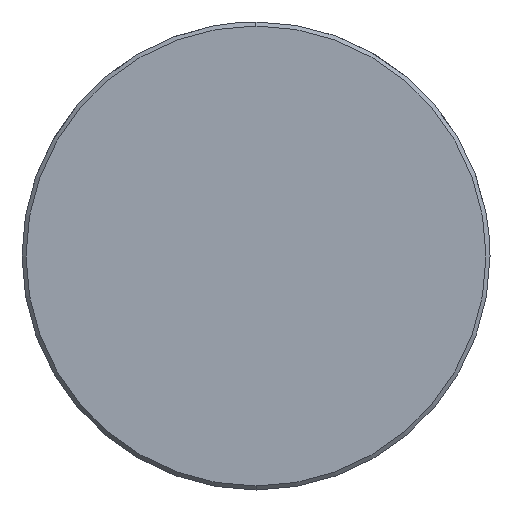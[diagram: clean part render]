
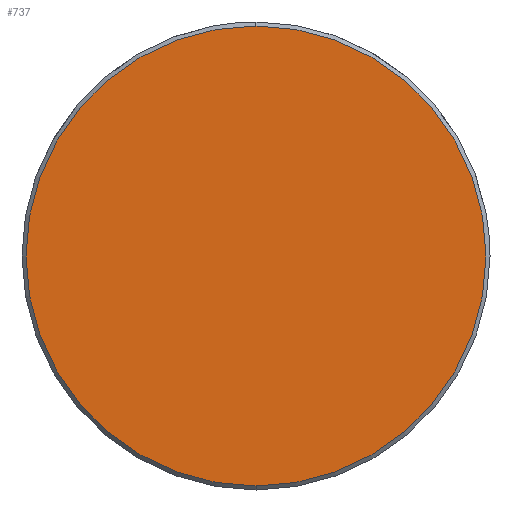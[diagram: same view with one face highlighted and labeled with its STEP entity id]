
A CAD part, left-side view. The second image highlights one B-rep face of the part: STEP entity #737.
In plain terms, the highlighted planar face has unit normal (-1, 0, 0).
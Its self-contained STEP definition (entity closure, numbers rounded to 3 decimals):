
#669=CARTESIAN_POINT('Vertex',(0.,0.,-17.2)) ;
#672=CARTESIAN_POINT('Axis2P3D Location',(0.,0.,0.)) ;
#676=CARTESIAN_POINT('Vertex',(0.,17.2,0.)) ;
#679=CARTESIAN_POINT('Axis2P3D Location',(0.,0.,0.)) ;
#683=CARTESIAN_POINT('Vertex',(0.,0.,17.2)) ;
#705=CARTESIAN_POINT('Axis2P3D Location',(0.,0.,0.)) ;
#709=CARTESIAN_POINT('Vertex',(0.,-17.2,0.)) ;
#712=CARTESIAN_POINT('Axis2P3D Location',(0.,0.,0.)) ;
#726=CARTESIAN_POINT('Axis2P3D Location',(0.,0.,0.)) ;
#673=DIRECTION('Axis2P3D Direction',(1.,0.,-0.)) ;
#680=DIRECTION('Axis2P3D Direction',(1.,0.,-0.)) ;
#706=DIRECTION('Axis2P3D Direction',(1.,0.,-0.)) ;
#713=DIRECTION('Axis2P3D Direction',(1.,0.,-0.)) ;
#727=DIRECTION('Axis2P3D Direction',(1.,0.,-0.)) ;
#728=DIRECTION('Axis2P3D XDirection',(-0.,0.,-1.)) ;
#674=AXIS2_PLACEMENT_3D('Circle Axis2P3D',#672,#673,$) ;
#681=AXIS2_PLACEMENT_3D('Circle Axis2P3D',#679,#680,$) ;
#707=AXIS2_PLACEMENT_3D('Circle Axis2P3D',#705,#706,$) ;
#714=AXIS2_PLACEMENT_3D('Circle Axis2P3D',#712,#713,$) ;
#729=AXIS2_PLACEMENT_3D('Plane Axis2P3D',#726,#727,#728) ;
#732=ORIENTED_EDGE('',*,*,#678,.F.) ;
#733=ORIENTED_EDGE('',*,*,#716,.F.) ;
#734=ORIENTED_EDGE('',*,*,#711,.F.) ;
#735=ORIENTED_EDGE('',*,*,#685,.F.) ;
#737=ADVANCED_FACE('549-30X120',(#736),#730,.F.) ;
#675=CIRCLE('generated circle',#674,17.2) ;
#682=CIRCLE('generated circle',#681,17.2) ;
#708=CIRCLE('generated circle',#707,17.2) ;
#715=CIRCLE('generated circle',#714,17.2) ;
#678=EDGE_CURVE('',#670,#677,#675,.T.) ;
#685=EDGE_CURVE('',#677,#684,#682,.T.) ;
#711=EDGE_CURVE('',#684,#710,#708,.T.) ;
#716=EDGE_CURVE('',#710,#670,#715,.T.) ;
#731=EDGE_LOOP('',(#732,#733,#734,#735)) ;
#736=FACE_OUTER_BOUND('',#731,.T.) ;
#730=PLANE('Plane',#729) ;
#670=VERTEX_POINT('',#669) ;
#677=VERTEX_POINT('',#676) ;
#684=VERTEX_POINT('',#683) ;
#710=VERTEX_POINT('',#709) ;
